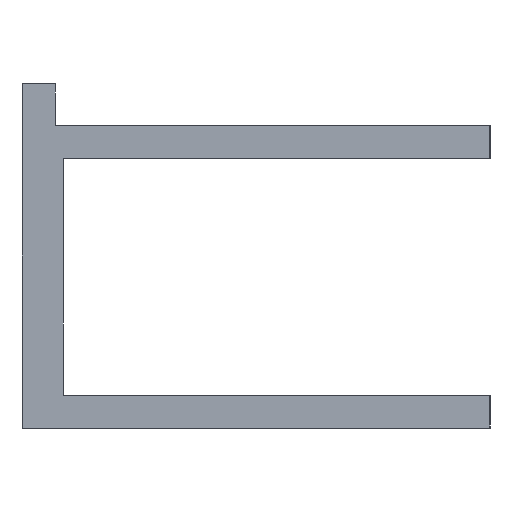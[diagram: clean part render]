
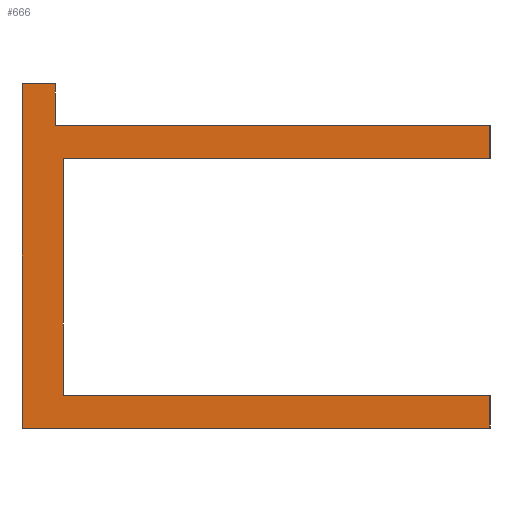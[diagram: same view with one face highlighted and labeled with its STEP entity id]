
A CAD part, left-side view. The second image highlights one B-rep face of the part: STEP entity #666.
In plain terms, the highlighted planar face has unit normal (-1, 0, 0).
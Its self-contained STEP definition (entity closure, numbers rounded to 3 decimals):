
#362=ORIENTED_EDGE('',*,*,#467,.T.);
#363=ORIENTED_EDGE('',*,*,#470,.T.);
#364=ORIENTED_EDGE('',*,*,#473,.T.);
#365=ORIENTED_EDGE('',*,*,#476,.T.);
#366=ORIENTED_EDGE('',*,*,#479,.T.);
#367=ORIENTED_EDGE('',*,*,#482,.T.);
#368=ORIENTED_EDGE('',*,*,#485,.T.);
#369=ORIENTED_EDGE('',*,*,#488,.T.);
#370=ORIENTED_EDGE('',*,*,#490,.T.);
#371=ORIENTED_EDGE('',*,*,#463,.T.);
#383=VECTOR('',#519,1.);
#387=VECTOR('',#525,1.);
#390=VECTOR('',#530,1.);
#393=VECTOR('',#535,1.);
#396=VECTOR('',#540,1.);
#399=VECTOR('',#545,1.);
#402=VECTOR('',#550,1.);
#405=VECTOR('',#555,1.);
#408=VECTOR('',#560,1.);
#410=VECTOR('',#564,1.);
#413=LINE('',#575,#383);
#417=LINE('',#583,#387);
#420=LINE('',#589,#390);
#423=LINE('',#595,#393);
#426=LINE('',#601,#396);
#429=LINE('',#607,#399);
#432=LINE('',#613,#402);
#435=LINE('',#619,#405);
#438=LINE('',#625,#408);
#440=LINE('',#628,#410);
#442=VERTEX_POINT('',#571);
#444=VERTEX_POINT('',#574);
#446=VERTEX_POINT('',#580);
#448=VERTEX_POINT('',#586);
#450=VERTEX_POINT('',#592);
#452=VERTEX_POINT('',#598);
#454=VERTEX_POINT('',#604);
#456=VERTEX_POINT('',#610);
#458=VERTEX_POINT('',#616);
#460=VERTEX_POINT('',#622);
#463=EDGE_CURVE('',#444,#442,#413,.T.);
#467=EDGE_CURVE('',#442,#446,#417,.T.);
#470=EDGE_CURVE('',#446,#448,#420,.T.);
#473=EDGE_CURVE('',#448,#450,#423,.T.);
#476=EDGE_CURVE('',#450,#452,#426,.T.);
#479=EDGE_CURVE('',#452,#454,#429,.T.);
#482=EDGE_CURVE('',#454,#456,#432,.T.);
#485=EDGE_CURVE('',#456,#458,#435,.T.);
#488=EDGE_CURVE('',#458,#460,#438,.T.);
#490=EDGE_CURVE('',#460,#444,#440,.T.);
#502=EDGE_LOOP('',(#362,#363,#364,#365,#366,#367,#368,#369,#370,#371));
#514=FACE_BOUND('',#502,.T.);
#519=DIRECTION('',(0.,0.,1.5));
#525=DIRECTION('',(0.,1.2,0.));
#530=DIRECTION('',(0.,0.,-12.5));
#535=DIRECTION('',(0.,-17.,0.));
#540=DIRECTION('',(0.,0.,1.193));
#545=DIRECTION('',(0.,15.5,0.));
#550=DIRECTION('',(0.,0.,8.6));
#555=DIRECTION('',(0.,-15.5,0.));
#560=DIRECTION('',(0.,0.,1.207));
#564=DIRECTION('',(0.,15.8,0.));
#566=DIRECTION('',(-1.,0.,0.));
#567=DIRECTION('',(0.,1.,0.));
#571=CARTESIAN_POINT('',(0.,15.8,7.));
#574=CARTESIAN_POINT('',(0.,15.8,5.5));
#575=CARTESIAN_POINT('',(0.,15.8,5.5));
#580=CARTESIAN_POINT('',(0.,17.,7.));
#583=CARTESIAN_POINT('',(0.,15.8,7.));
#586=CARTESIAN_POINT('',(0.,17.,-5.5));
#589=CARTESIAN_POINT('',(0.,17.,7.));
#592=CARTESIAN_POINT('',(0.,0.,-5.5));
#595=CARTESIAN_POINT('',(0.,17.,-5.5));
#598=CARTESIAN_POINT('',(0.,0.,-4.307));
#601=CARTESIAN_POINT('',(0.,0.,-5.5));
#604=CARTESIAN_POINT('',(0.,15.5,-4.307));
#607=CARTESIAN_POINT('',(0.,0.,-4.307));
#610=CARTESIAN_POINT('',(0.,15.5,4.293));
#613=CARTESIAN_POINT('',(0.,15.5,-4.307));
#616=CARTESIAN_POINT('',(0.,0.,4.293));
#619=CARTESIAN_POINT('',(0.,15.5,4.293));
#622=CARTESIAN_POINT('',(0.,0.,5.5));
#625=CARTESIAN_POINT('',(0.,0.,4.293));
#628=CARTESIAN_POINT('',(0.,0.,5.5));
#630=CARTESIAN_POINT('',(0.,15.8,7.));
#642=AXIS2_PLACEMENT_3D('',#630,#566,#567);
#654=PLANE('',#642);
#666=ADVANCED_FACE('',(#514),#654,.T.);
